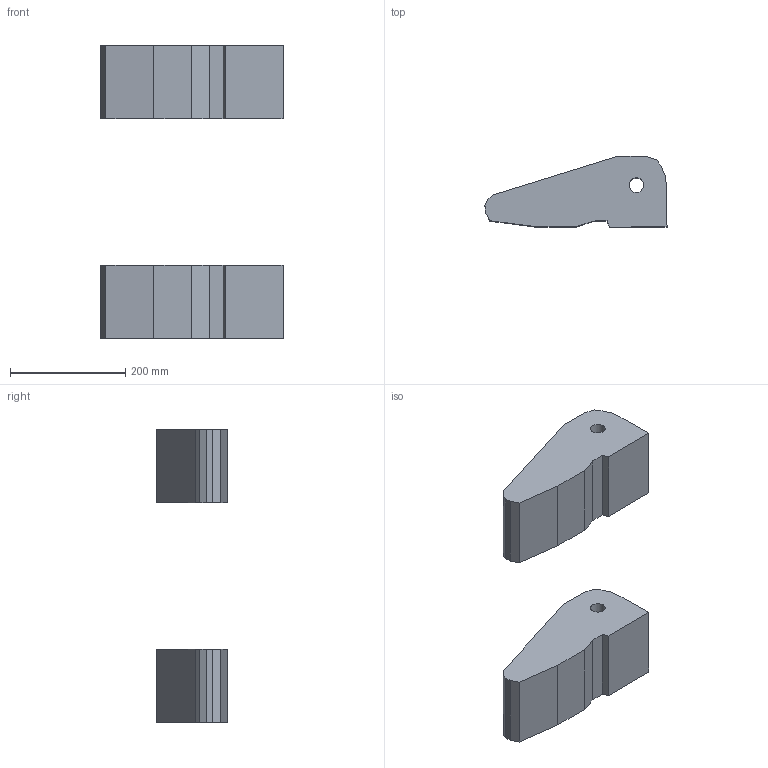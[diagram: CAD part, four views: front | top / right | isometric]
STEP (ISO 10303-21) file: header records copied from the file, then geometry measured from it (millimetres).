
FILE_DESCRIPTION(/* description */ ('Alibre Inc.'),/* implementation_level */ '2;1');
FILE_NAME(/* name */ 'export0',/* time_stamp */ '2007-03-23T19:16:42-07:00',/* author */ (''),/* organization */ (''),/* preprocessor_version */ 'ST-DEVELOPER v10',/* originating_system */ 'Alibre',/* authorisation */ '');
FILE_SCHEMA (('ALIBRE_SCHEMA','CONFIG_CONTROL_DESIGN'));
Length unit declared in the file: centimetre
Products named in the file (1): ID_1
Bounding box: 315.97 x 123.28 x 508 mm (x, y, z)
Volume: 7204690.9 mm3; surface area: 333036.1 mm2
Topology: 2 solids, 2 shells, 40 faces, 108 edges, 72 vertices
Faces by surface type: plane 38, cylinder 2
Full cylindrical faces by diameter (mm): 25.4 x2
Entity records: 1792 total; most frequent: CARTESIAN_POINT 239, ORIENTED_EDGE 212, DIRECTION 160, VECTOR 120, LINE 108, EDGE_CURVE 106, PERSISTANTTOPOLOGYATTRIBUTE 100, VERTEX_POINT 72
